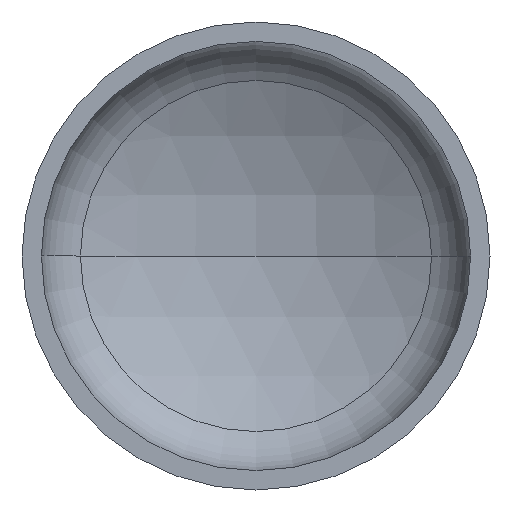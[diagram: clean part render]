
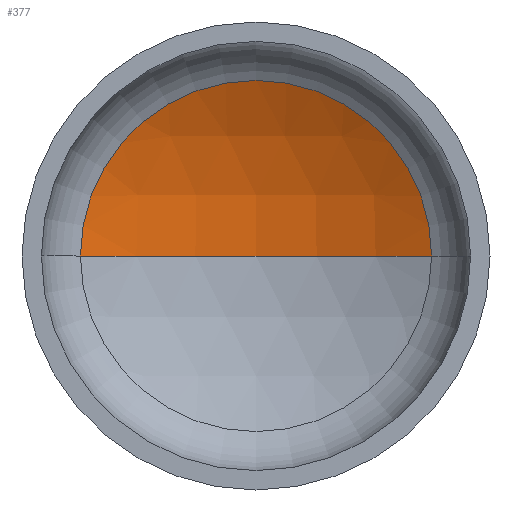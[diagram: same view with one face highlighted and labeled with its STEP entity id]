
A CAD part, front view. The second image highlights one B-rep face of the part: STEP entity #377.
In plain terms, the highlighted spherical face has radius 560 mm.
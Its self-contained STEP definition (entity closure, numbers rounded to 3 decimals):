
#4 = AXIS2_PLACEMENT_3D ( 'NONE', #123, #68, #315 ) ;
#11 = AXIS2_PLACEMENT_3D ( 'NONE', #287, #309, #97 ) ;
#15 = CARTESIAN_POINT ( 'NONE',  ( 262.578, 187.158, 0. ) ) ;
#18 = AXIS2_PLACEMENT_3D ( 'NONE', #137, #336, #189 ) ;
#25 = EDGE_LOOP ( 'NONE', ( #65, #38, #156 ) ) ;
#26 = AXIS2_PLACEMENT_3D ( 'NONE', #314, #264, #59 ) ;
#38 = ORIENTED_EDGE ( 'NONE', *, *, #352, .T. ) ;
#53 = VERTEX_POINT ( 'NONE', #229 ) ;
#59 = DIRECTION ( 'NONE',  ( 1., 0., 0. ) ) ;
#62 = CARTESIAN_POINT ( 'NONE',  ( 0., 252.534, 0. ) ) ;
#65 = ORIENTED_EDGE ( 'NONE', *, *, #394, .F. ) ;
#68 = DIRECTION ( 'NONE',  ( 0., 0., 1. ) ) ;
#97 = DIRECTION ( 'NONE',  ( -1., 0., 0. ) ) ;
#123 = CARTESIAN_POINT ( 'NONE',  ( 0., -307.466, 0. ) ) ;
#131 = VERTEX_POINT ( 'NONE', #62 ) ;
#137 = CARTESIAN_POINT ( 'NONE',  ( 0., -307.466, 0. ) ) ;
#156 = ORIENTED_EDGE ( 'NONE', *, *, #341, .T. ) ;
#170 = CIRCLE ( 'NONE', #26, 262.578 ) ;
#177 = VERTEX_POINT ( 'NONE', #15 ) ;
#189 = DIRECTION ( 'NONE',  ( -1., 0., 0. ) ) ;
#215 = FACE_OUTER_BOUND ( 'NONE', #25, .T. ) ;
#224 = SPHERICAL_SURFACE ( 'NONE', #11, 560. ) ;
#229 = CARTESIAN_POINT ( 'NONE',  ( -262.578, 187.158, 0. ) ) ;
#232 = CIRCLE ( 'NONE', #18, 560. ) ;
#264 = DIRECTION ( 'NONE',  ( 0., -1., 0. ) ) ;
#287 = CARTESIAN_POINT ( 'NONE',  ( 0., -307.466, 0. ) ) ;
#309 = DIRECTION ( 'NONE',  ( 0., 0., -1. ) ) ;
#314 = CARTESIAN_POINT ( 'NONE',  ( 0., 187.158, 0. ) ) ;
#315 = DIRECTION ( 'NONE',  ( 1., 0., 0. ) ) ;
#336 = DIRECTION ( 'NONE',  ( 0., 0., -1. ) ) ;
#338 = CIRCLE ( 'NONE', #4, 560. ) ;
#341 = EDGE_CURVE ( 'NONE', #177, #53, #170, .T. ) ;
#352 = EDGE_CURVE ( 'NONE', #131, #177, #232, .T. ) ;
#377 = ADVANCED_FACE ( 'NONE', ( #215 ), #224, .F. ) ;
#394 = EDGE_CURVE ( 'NONE', #131, #53, #338, .T. ) ;
